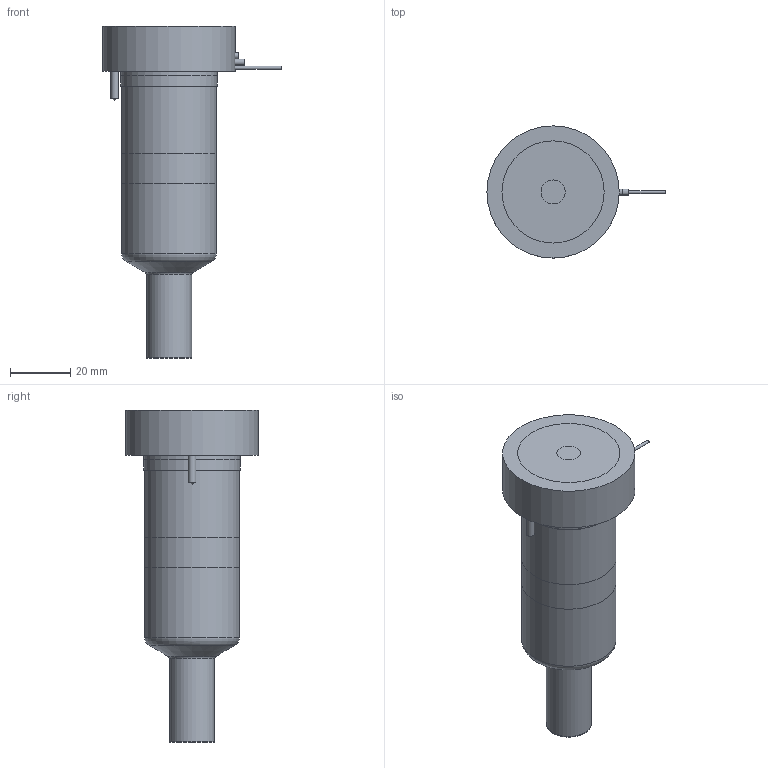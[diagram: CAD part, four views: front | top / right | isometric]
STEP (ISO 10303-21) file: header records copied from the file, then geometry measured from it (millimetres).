
FILE_DESCRIPTION(/* description */ (''),/* implementation_level */ '2;1');
FILE_NAME(/* name */ 'MXTSX-MXISX-MXOSX19075_200C_b',/* time_stamp */ '2008-04-28T15:42:26+12:00',/* author */ (''),/* organization */ (''),/* preprocessor_version */ 'ST-DEVELOPER v9',/* originating_system */ 'UGS - NX 4.0',/* authorisation */ '');
FILE_SCHEMA (('CONFIG_CONTROL_DESIGN'));
Length unit declared in the file: millimetre
Products named in the file (1): MXTSX-MXISX-MXOSX19075_200C_b
Bounding box: 59.25 x 44 x 110.45 mm (x, y, z)
Volume: 141385.4 mm3; surface area: 27128.9 mm2
Topology: 7 solids, 7 shells, 78 faces, 147 edges, 95 vertices
Faces by surface type: plane 35, cylinder 27, cone 8, torus 7, bspline 1
Full cylindrical faces by diameter (mm): 1 x3, 1.2 x1, 2 x2, 2.5 x2, 8 x1, 14.61 x1, 15.01 x2, 18.3 x1, 25.4 x1, 31.5 x2, 32 x2, 44 x1
Entity records: 1886 total; most frequent: CARTESIAN_POINT 376, DIRECTION 322, ORIENTED_EDGE 212, AXIS2_PLACEMENT_3D 148, EDGE_LOOP 122, EDGE_CURVE 106, VERTEX_POINT 87, ADVANCED_FACE 78
